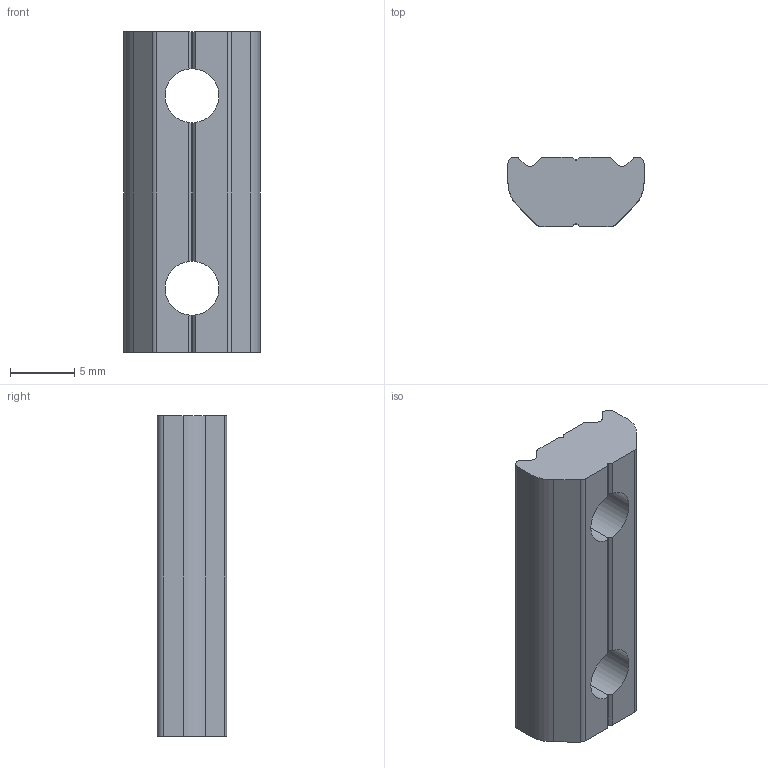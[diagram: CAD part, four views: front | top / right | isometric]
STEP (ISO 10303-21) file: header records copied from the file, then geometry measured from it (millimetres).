
FILE_DESCRIPTION (( 'STEP AP214' ), '1' );
FILE_NAME ('PTN-M5P15.STEP', '2019-10-30T02:11:55', ( '微软用户' ), ( '微软中国' ), 'SwSTEP 2.0', 'SolidWorks 2016', '' );
FILE_SCHEMA (( 'AUTOMOTIVE_DESIGN' ));
Length unit declared in the file: millimetre
Products named in the file (1): PTN-M5P15
Bounding box: 10.6 x 5.4 x 25 mm (x, y, z)
Volume: 1086.5 mm3; surface area: 932.7 mm2
Topology: 1 solids, 1 shells, 50 faces, 156 edges, 104 vertices
Faces by surface type: plane 28, cylinder 22
Entity records: 1890 total; most frequent: CARTESIAN_POINT 503, ORIENTED_EDGE 312, DIRECTION 262, EDGE_CURVE 156, VERTEX_POINT 104, LINE 88, VECTOR 88, AXIS2_PLACEMENT_3D 87
